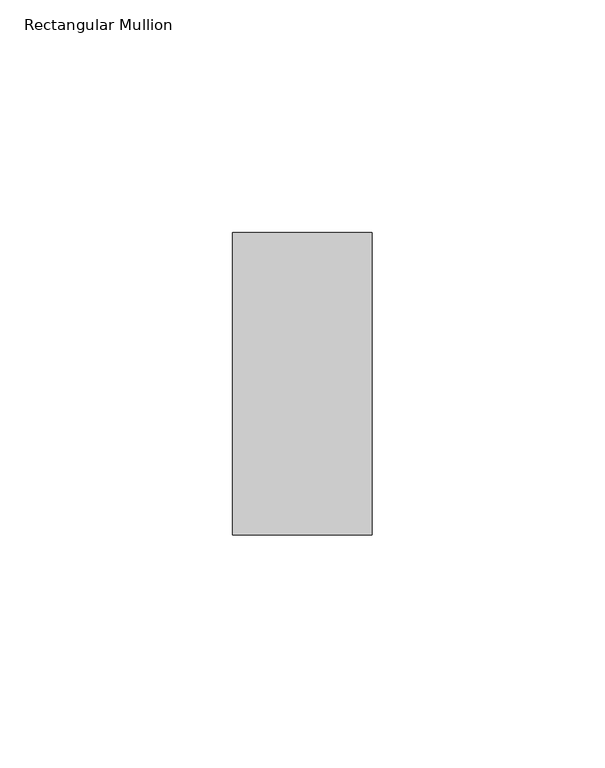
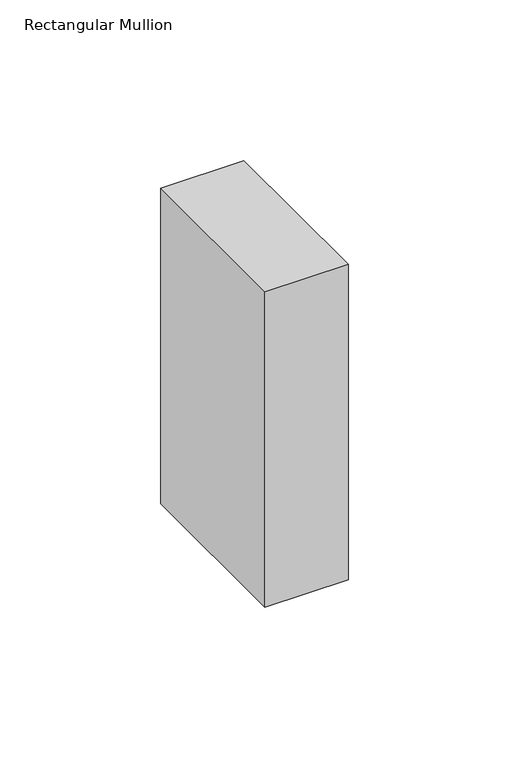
"""IFC4 building model written with IfcOpenShell, lengths in millimetres: member geometry, Rectangular Mullion : Batten_Timber_Modinex_Austratus_Grid_Fascia_30x65_AlaskanYellowCedar."""

from ifc_helpers import new_model, si_unit, frame, origin, place, context, project, spatial, polyline, outline, extrude, source, transform, mapped, element, save


def rectangular_mullion_1c916715(model_context):
    return source(origin(), model_context, "Body", "SweptSolid", [
        extrude(outline(polyline([(-15.0, 65.0), (15.0, 65.0), (15.0, 0.0), (-15.0, 0.0), (-15.0, 65.0)])), frame((0.0, 0.0, -120.0000003), z_axis=(0.0, 0.0, 1.0), x_axis=(1.0, 0.0, 0.0)), (0.0, 0.0, 1.0), 120.0000003),
    ])


if __name__ == "__main__":
    model = new_model("IFC4")
    model_context = context("Model", 3, world=origin())
    ifc_project = project(units=[si_unit("LENGTHUNIT", "METRE", prefix="MILLI")], contexts=[model_context])
    site = spatial("IfcSite", under=ifc_project)
    building = spatial("IfcBuilding", under=site)
    placement = place(None, origin())
    rectangular_mullion_shape = rectangular_mullion_1c916715(model_context)
    element("IfcMember", 1, ObjectType="Rectangular Mullion : Batten_Timber_Modinex_Austratus_Grid_Fascia_30x65_AlaskanYellowCedar", at=placement, inside=building, context=model_context, shape_type="MappedRepresentation", body=[
        mapped(rectangular_mullion_shape, transform((0.0, 0.0, 0.0), x_axis=(1.0, 0.0, 0.0), y_axis=(0.0, 1.0, 0.0), z_axis=(0.0, 0.0, 1.0))),
    ])
    save(model, "model.ifc")
